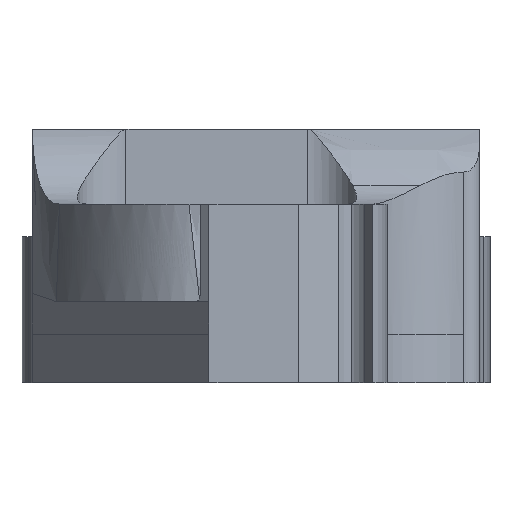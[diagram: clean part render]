
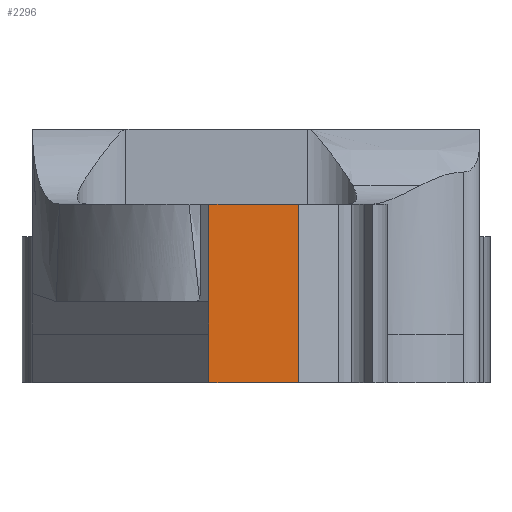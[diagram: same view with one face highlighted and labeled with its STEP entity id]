
A CAD part, front view. The second image highlights one B-rep face of the part: STEP entity #2296.
In plain terms, the highlighted planar face has unit normal (0, -1, 0).
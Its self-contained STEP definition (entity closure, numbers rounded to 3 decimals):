
#169=PLANE('',#2525);
#282=FACE_OUTER_BOUND('',#402,.T.);
#402=EDGE_LOOP('',(#2033,#2034,#2035,#2036,#2037,#2038));
#447=LINE('',#3595,#654);
#458=LINE('',#3631,#665);
#601=LINE('',#4721,#808);
#602=LINE('',#4724,#809);
#603=LINE('',#4726,#810);
#604=LINE('',#4727,#811);
#654=VECTOR('',#2621,10.);
#665=VECTOR('',#2648,10.);
#808=VECTOR('',#3109,10.);
#809=VECTOR('',#3112,10.);
#810=VECTOR('',#3113,10.);
#811=VECTOR('',#3114,10.);
#966=VERTEX_POINT('',#3588);
#969=VERTEX_POINT('',#3593);
#986=VERTEX_POINT('',#3629);
#1145=VERTEX_POINT('',#4719);
#1146=VERTEX_POINT('',#4723);
#1147=VERTEX_POINT('',#4725);
#1205=EDGE_CURVE('',#966,#969,#447,.T.);
#1223=EDGE_CURVE('',#986,#969,#458,.T.);
#1468=EDGE_CURVE('',#1145,#986,#601,.T.);
#1469=EDGE_CURVE('',#1146,#1145,#602,.T.);
#1470=EDGE_CURVE('',#1147,#1146,#603,.T.);
#1471=EDGE_CURVE('',#966,#1147,#604,.T.);
#2033=ORIENTED_EDGE('',*,*,#1468,.F.);
#2034=ORIENTED_EDGE('',*,*,#1469,.F.);
#2035=ORIENTED_EDGE('',*,*,#1470,.F.);
#2036=ORIENTED_EDGE('',*,*,#1471,.F.);
#2037=ORIENTED_EDGE('',*,*,#1205,.T.);
#2038=ORIENTED_EDGE('',*,*,#1223,.F.);
#2296=ADVANCED_FACE('',(#282),#169,.T.);
#2525=AXIS2_PLACEMENT_3D('',#4722,#3110,#3111);
#2621=DIRECTION('',(0.,0.,-1.));
#2648=DIRECTION('',(-1.,0.,0.));
#3109=DIRECTION('',(0.,0.,-1.));
#3110=DIRECTION('center_axis',(0.,-1.,0.));
#3111=DIRECTION('ref_axis',(0.,0.,-1.));
#3112=DIRECTION('',(1.,0.,0.));
#3113=DIRECTION('',(0.,0.,1.));
#3114=DIRECTION('',(0.,0.,1.));
#3588=CARTESIAN_POINT('',(-7.99,-14.646,-4.));
#3593=CARTESIAN_POINT('',(-7.99,-14.646,-7.));
#3595=CARTESIAN_POINT('',(-7.99,-14.646,-4.));
#3629=CARTESIAN_POINT('',(-2.474,-14.646,-7.));
#3631=CARTESIAN_POINT('',(-5.133,-14.646,-7.));
#4719=CARTESIAN_POINT('',(-2.474,-14.646,4.));
#4721=CARTESIAN_POINT('',(-2.474,-14.646,-4.));
#4722=CARTESIAN_POINT('Origin',(-7.334,-14.646,-0.4));
#4723=CARTESIAN_POINT('',(-7.99,-14.646,4.));
#4724=CARTESIAN_POINT('',(-5.544,-14.646,4.));
#4725=CARTESIAN_POINT('',(-7.99,-14.646,-2.));
#4726=CARTESIAN_POINT('',(-7.99,-14.646,-0.976));
#4727=CARTESIAN_POINT('',(-7.99,-14.646,-1.165));
